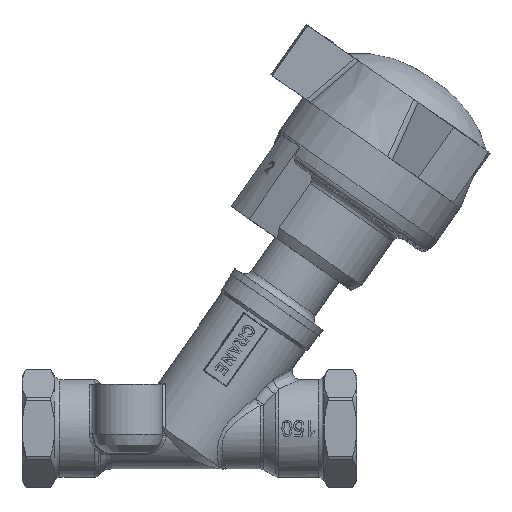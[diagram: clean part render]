
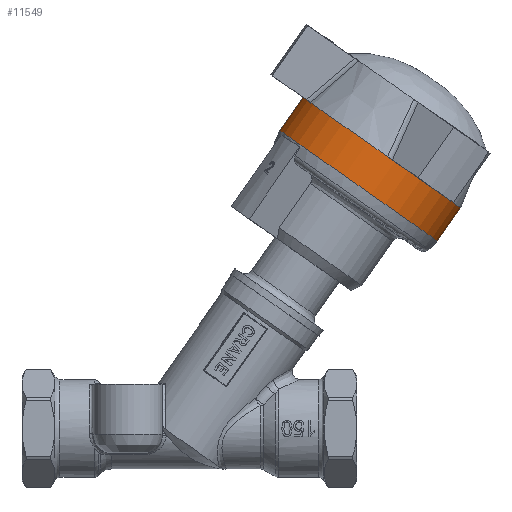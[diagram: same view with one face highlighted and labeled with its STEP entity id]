
A CAD part, top view. The second image highlights one B-rep face of the part: STEP entity #11549.
In plain terms, the highlighted cylindrical face has radius 25 mm (diameter 50 mm), a full revolution.
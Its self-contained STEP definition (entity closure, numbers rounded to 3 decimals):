
#11448=CARTESIAN_POINT('',(0.618,62.948,-24.999));
#11449=VERTEX_POINT('',#11448);
#11450=CARTESIAN_POINT('',(0.456,63.061,0.));
#11451=DIRECTION('',(0.574,0.819,0.));
#11452=DIRECTION('',(0.006,-0.005,-1.));
#11453=AXIS2_PLACEMENT_3D('',#11450,#11451,#11452);
#11454=CIRCLE('',#11453,25.);
#11455=EDGE_CURVE('',#11449,#11449,#11454,.T.);
#11530=CARTESIAN_POINT('',(4.184,68.385,0.));
#11531=DIRECTION('',(0.574,0.819,0.));
#11532=DIRECTION('',(0.006,-0.005,-1.));
#11533=AXIS2_PLACEMENT_3D('',#11530,#11531,#11532);
#11534=CYLINDRICAL_SURFACE('',#11533,25.);
#11535=ORIENTED_EDGE('',*,*,#11455,.T.);
#11536=EDGE_LOOP('',(#11535));
#11537=FACE_OUTER_BOUND('',#11536,.T.);
#11538=CARTESIAN_POINT('',(6.64,71.549,-24.999));
#11539=VERTEX_POINT('',#11538);
#11540=CARTESIAN_POINT('',(6.478,71.662,0.));
#11541=DIRECTION('',(0.574,0.819,0.));
#11542=DIRECTION('',(0.006,-0.005,-1.));
#11543=AXIS2_PLACEMENT_3D('',#11540,#11541,#11542);
#11544=CIRCLE('',#11543,25.);
#11545=EDGE_CURVE('',#11539,#11539,#11544,.T.);
#11546=ORIENTED_EDGE('',*,*,#11545,.F.);
#11547=EDGE_LOOP('',(#11546));
#11548=FACE_BOUND('',#11547,.T.);
#11549=ADVANCED_FACE('',(#11537,#11548),#11534,.T.);
